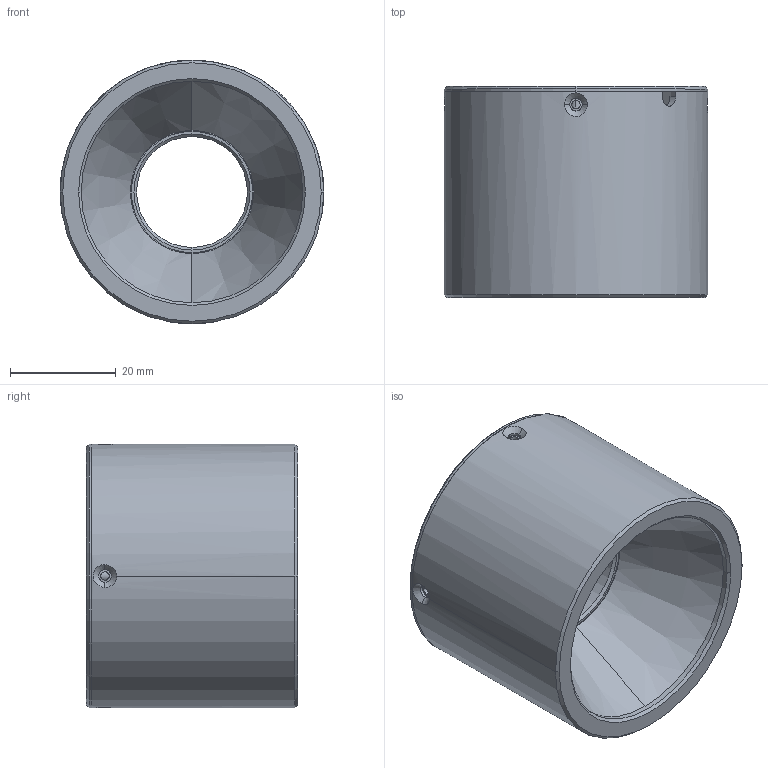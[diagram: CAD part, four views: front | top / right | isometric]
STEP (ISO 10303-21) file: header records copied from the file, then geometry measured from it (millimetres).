
FILE_DESCRIPTION (( 'STEP AP203' ), '1' );
FILE_NAME ('CST-FRS50-¼òÒ×3DÍ¼.STEP', '2019-09-27T08:24:57', ( '' ), ( '' ), 'SwSTEP 2.0', 'SolidWorks 2014', '' );
FILE_SCHEMA (( 'CONFIG_CONTROL_DESIGN' ));
Length unit declared in the file: millimetre
Products named in the file (1): CST-FRS50-潠眢3D芞
Bounding box: 50 x 40 x 50 mm (x, y, z)
Surface area: 15926.6 mm2 (no closed solid volume)
Topology: 0 solids, 3 shells, 69 faces, 193 edges, 126 vertices
Faces by surface type: cylinder 42, cone 20, plane 7
Entity records: 2771 total; most frequent: CARTESIAN_POINT 923, DIRECTION 384, ORIENTED_EDGE 336, EDGE_CURVE 193, AXIS2_PLACEMENT_3D 155, VERTEX_POINT 126, CIRCLE 85, EDGE_LOOP 83
